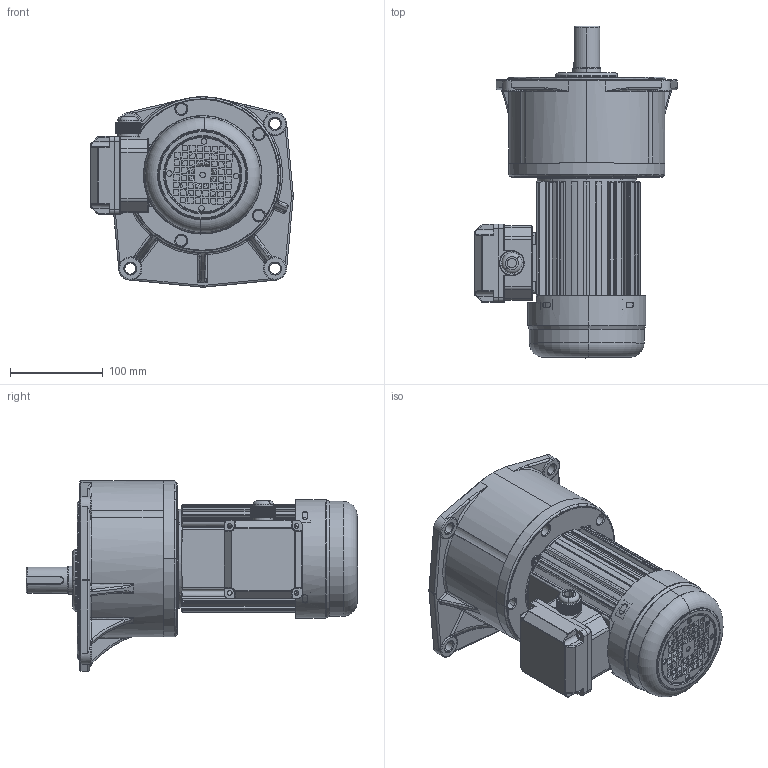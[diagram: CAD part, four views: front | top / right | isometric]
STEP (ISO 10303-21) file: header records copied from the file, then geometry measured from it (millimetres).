
FILE_DESCRIPTION (( 'STEP AP203' ), '1' );
FILE_NAME ('200W饜3#湍价陬蕾宒.STEP', '2020-04-17T03:28:05', ( '' ), ( '' ), 'SwSTEP 2.0', 'SolidWorks 2019', '' );
FILE_SCHEMA (( 'CONFIG_CONTROL_DESIGN' ));
Length unit declared in the file: millimetre
Products named in the file (7): 蜊輛綴諉盄碟釱3; 100W价陬瑞欶; 100W棠憤迖殤; 200W饜3#湍价陬蕾宒; 諉芛; 湍价陬諉盄碟裔; 200W饜3#蕾宒
Assembly tree (6 placements, depth 2):
  200W饜3#湍价陬蕾宒
    200W饜3#蕾宒
    100W棠憤迖殤
    100W价陬瑞欶
    蜊輛綴諉盄碟釱3
    諉芛
    湍价陬諉盄碟裔
Bounding box: 217.98 x 357 x 204.98 mm (x, y, z)
Volume: 2911451.1 mm3; surface area: 539204.4 mm2
Topology: 8 solids, 12 shells, 2316 faces, 5976 edges, 3744 vertices
Faces by surface type: cylinder 740, plane 723, bspline 480, torus 203, cone 158, sphere 12
Entity records: 101596 total; most frequent: CARTESIAN_POINT 48074, ORIENTED_EDGE 11924, DIRECTION 9888, EDGE_CURVE 5962, VERTEX_POINT 3744, AXIS2_PLACEMENT_3D 3684, EDGE_LOOP 2584, LINE 2520
